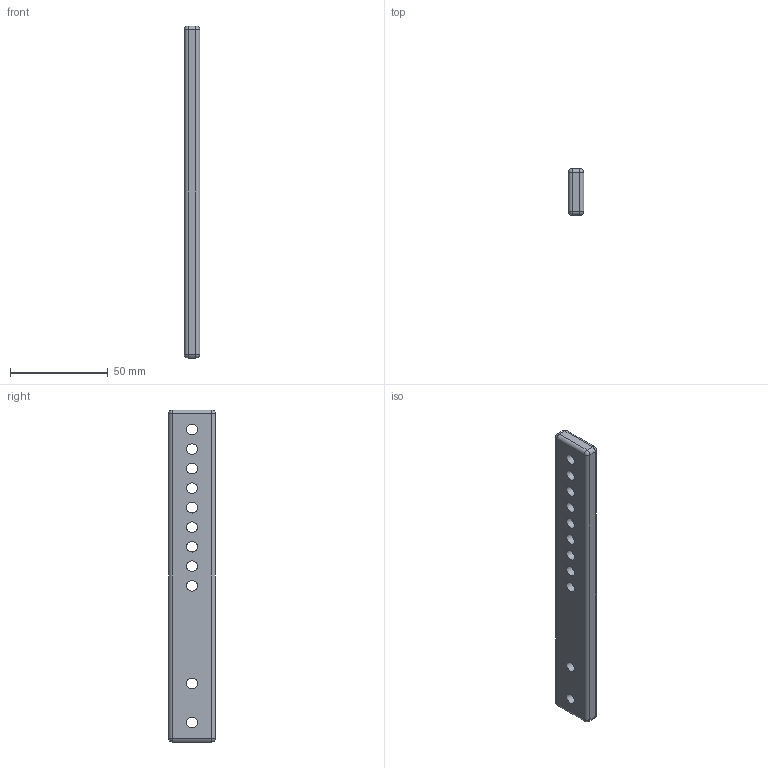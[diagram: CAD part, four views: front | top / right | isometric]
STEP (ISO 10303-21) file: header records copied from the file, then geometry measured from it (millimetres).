
FILE_DESCRIPTION(('Open CASCADE Model'),'2;1');
FILE_NAME('Open CASCADE Shape Model','2026-11-04T08:45:13',('Author'),( 'Open CASCADE'),'Open CASCADE STEP processor 7.8','Open CASCADE 7.8' ,'Unknown');
FILE_SCHEMA(('AUTOMOTIVE_DESIGN { 1 0 10303 214 1 1 1 1 }'));
Length unit declared in the file: millimetre
Products named in the file (1): Open CASCADE STEP translator 7.8 4
Bounding box: 8 x 24 x 170 mm (x, y, z)
Volume: 29866.4 mm3; surface area: 11563.7 mm2
Topology: 1 solids, 1 shells, 37 faces, 89 edges, 46 vertices
Faces by surface type: cylinder 23, sphere 8, plane 6
Full cylindrical faces by diameter (mm): 5.5 x11
Entity records: 2182 total; most frequent: CARTESIAN_POINT 459, DIRECTION 343, LINE 175, VECTOR 175, ORIENTED_EDGE 162, PCURVE 162, DEFINITIONAL_REPRESENTATION 162, AXIS2_PLACEMENT_3D 84
